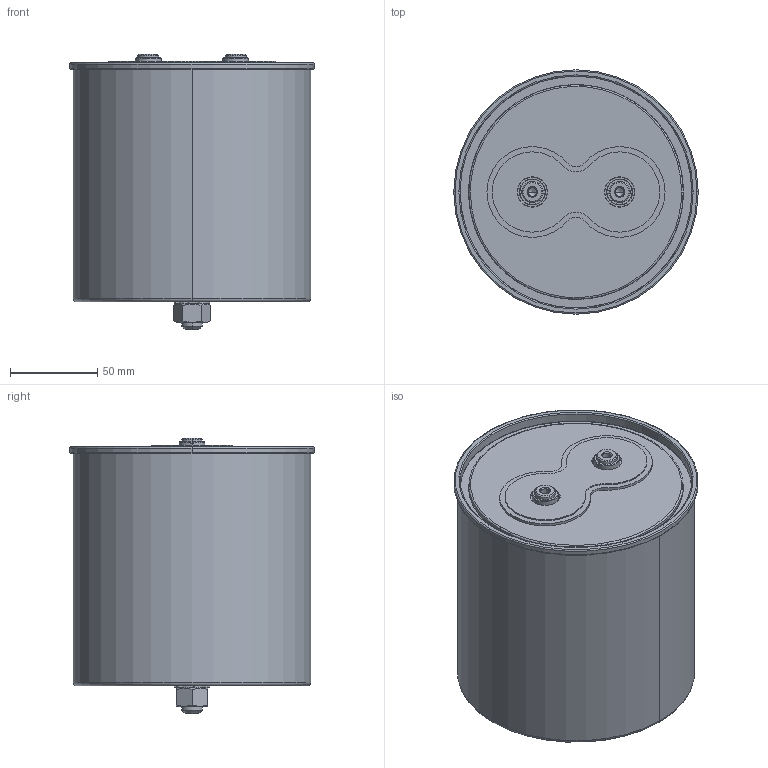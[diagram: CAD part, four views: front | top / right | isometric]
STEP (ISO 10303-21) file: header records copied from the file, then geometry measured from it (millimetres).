
FILE_DESCRIPTION (( 'STEP AP203' ), '1' );
FILE_NAME ('B25680Bx_136x137_142.STEP', '2021-09-30T06:18:22', ( '' ), ( '' ), 'SwSTEP 2.0', 'SolidWorks 2017', '' );
FILE_SCHEMA (( 'CONFIG_CONTROL_DESIGN' ));
Length unit declared in the file: millimetre
Products named in the file (1): B25680Bx_136x137_142
Bounding box: 140 x 140 x 158 mm (x, y, z)
Volume: 154111.7 mm3; surface area: 204422 mm2
Topology: 1 solids, 8 shells, 382 faces, 906 edges, 572 vertices
Faces by surface type: plane 152, cylinder 140, cone 34, torus 32, bspline 24
Entity records: 14163 total; most frequent: CARTESIAN_POINT 5049, DIRECTION 2030, ORIENTED_EDGE 1804, EDGE_CURVE 902, AXIS2_PLACEMENT_3D 821, VERTEX_POINT 572, CIRCLE 462, EDGE_LOOP 432
